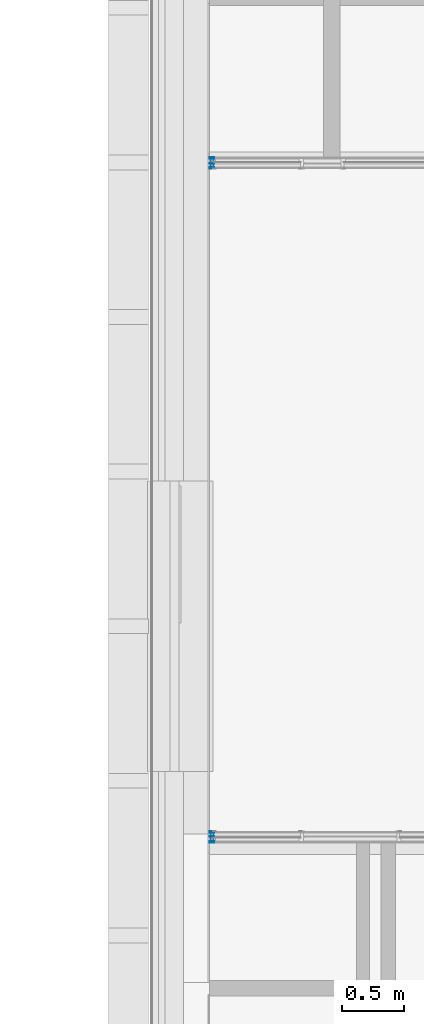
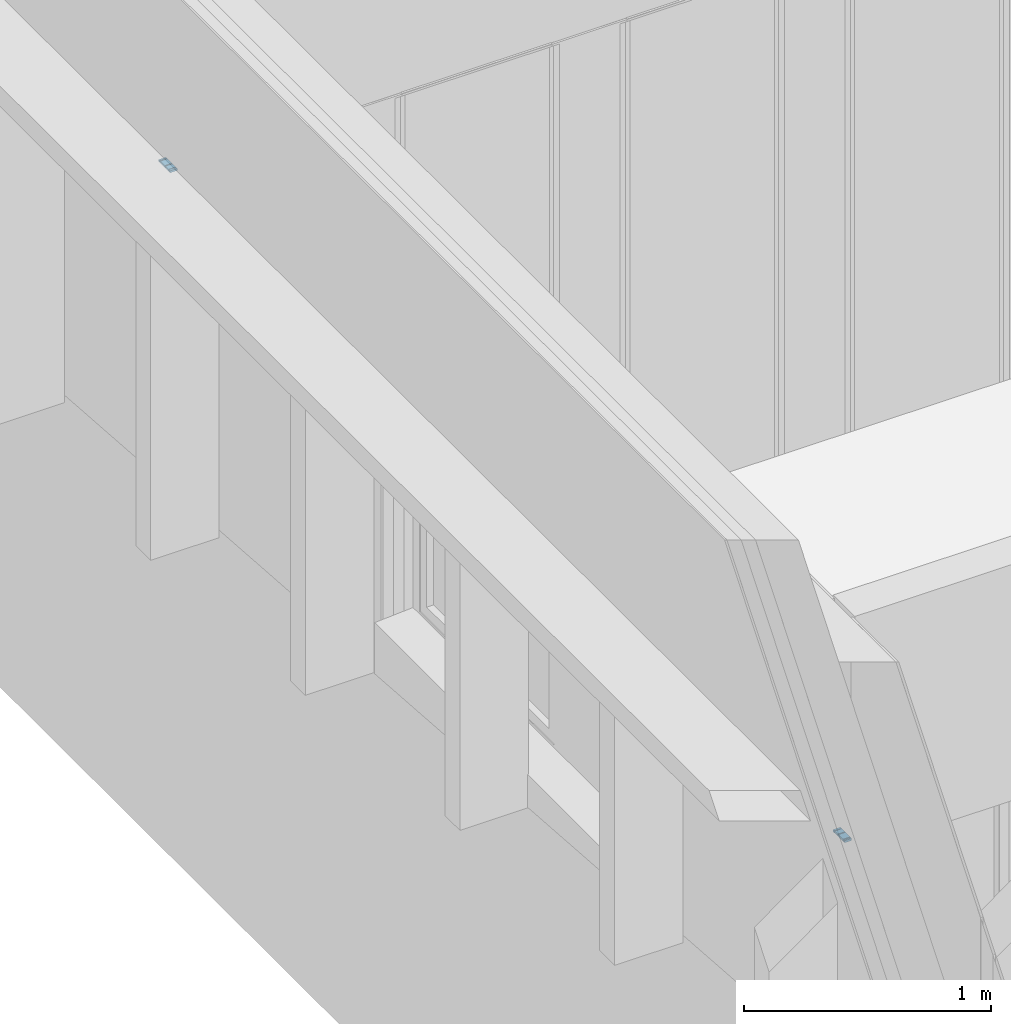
# One storey, part 34 of 89: 8 building element parts, 4 elements without a shape of their own.
"""IFC2X3 building model written with IfcOpenShell, lengths in millimetres."""

from ifc_helpers import new_model, entity, si_unit, converted_unit, derived_unit, money_unit, direction, frame, origin_with_axes, place, context, subcontext, project, spatial, faceted_brep, source, transform, mapped, material, type_object, element, aggregate, save


model = new_model("IFC2X3")

# Units and contexts
model_context = context("Model", 3, precision=0.01, world=origin_with_axes(), true_north=direction((0.0, 1.0)))
body_context = subcontext(model_context, "Body", "Model", "MODEL_VIEW")
ifc_project = project(units=[si_unit("LENGTHUNIT", "METRE", prefix="MILLI"), si_unit("AREAUNIT", "SQUARE_METRE"), si_unit("VOLUMEUNIT", "CUBIC_METRE"), converted_unit("PLANEANGLEUNIT", "DEGREE", entity("IfcPlaneAngleMeasure", 0.0174532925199), si_unit("PLANEANGLEUNIT", "RADIAN"), dimensions=[0, 0, 0, 0, 0, 0, 0]), si_unit("SOLIDANGLEUNIT", "STERADIAN"), money_unit("EUR"), converted_unit("TIMEUNIT", "Year", entity("IfcTimeMeasure", 31556926.0), si_unit("TIMEUNIT", "SECOND"), dimensions=[0, 0, 1, 0, 0, 0, 0]), si_unit("MASSUNIT", "GRAM", prefix="KILO"), si_unit("THERMODYNAMICTEMPERATUREUNIT", "DEGREE_CELSIUS"), si_unit("LUMINOUSINTENSITYUNIT", "LUMEN"), si_unit("ENERGYUNIT", "JOULE", prefix="MEGA"), derived_unit("THERMALCONDUCTANCEUNIT", [(si_unit("POWERUNIT", "WATT"), 1), (si_unit("LENGTHUNIT", "METRE"), -1), (si_unit("THERMODYNAMICTEMPERATUREUNIT", "KELVIN"), -1)]), derived_unit("SPECIFICHEATCAPACITYUNIT", [(si_unit("ENERGYUNIT", "JOULE"), 1), (si_unit("MASSUNIT", "GRAM", prefix="KILO"), -1), (si_unit("THERMODYNAMICTEMPERATUREUNIT", "KELVIN"), -1)]), derived_unit("MASSDENSITYUNIT", [(si_unit("MASSUNIT", "GRAM", prefix="KILO"), 1), (si_unit("VOLUMEUNIT", "CUBIC_METRE"), -1)])], contexts=[model_context])

# Site, building, storey
site_placement = place(None, origin_with_axes())
site = spatial("IfcSite", under=ifc_project, at=site_placement, Name="Puškini 31, Narva", CompositionType="ELEMENT")
building_placement = place(site_placement, origin_with_axes())
building = spatial("IfcBuilding", under=site, at=building_placement, Name="Narva Riigigümnaasium", CompositionType="ELEMENT")
storey_placement = place(building_placement, frame((0.0, 0.0, -3300.0), z_axis=(0.0, 0.0, 1.0), x_axis=(1.0, 0.0, 0.0)))
storey = spatial("IfcBuildingStorey", under=building, at=storey_placement, Name="1.korrus -3.3", CompositionType="ELEMENT", Elevation=-3300.0)

# Curtain wall, plate, building element part
curtain_wall_type = type_object("IfcCurtainWallType", Name="Curtain Wall Type", PredefinedType="NOTDEFINED")
curtain_wall_1_placement = place(storey_placement, frame((28798.9958137, 199279.999716, 0.0), z_axis=(0.0, 0.0, 1.0), x_axis=(1.0, 0.0, 0.0)))
curtain_wall_1 = element("IfcCurtainWall", 1, at=curtain_wall_1_placement, inside=storey, type_object=curtain_wall_type, Name="SUS-01")
plate_type = type_object("IfcPlateType", Name="SA-Siseuksesüsteem-Paneel 34 x 10 x 0", PredefinedType="CURTAIN_PANEL")
plate_1_placement = place(curtain_wall_1_placement, frame((-367.004185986, 0.0, 2394.9999372), z_axis=(0.0, 0.0, 1.0), x_axis=(-1.0, 0.0, 0.0)))
plate_1 = element("IfcPlate", 2, at=plate_1_placement, type_object=plate_type, Name="Panel-SA-Siseuks-085", ObjectType="CURTAIN_PANEL")
aggregate(curtain_wall_1, [plate_1])
ifc_material_1 = material(Name="MDF")
shared_shape_1 = source(origin_with_axes(), body_context, "Body", "Brep", [
    faceted_brep([(34.0, 10.0, 0.0), (0.0, 10.0, 0.0), (0.0, 10.0, 10.0), (34.0, 10.0, 10.0), (34.0, 0.0, 0.0), (0.0, 0.0, 0.0), (0.0, 0.0, 10.0), (34.0, 0.0, 10.0)], [[[0, 1, 2, 3]], [[0, 4, 5, 1]], [[1, 5, 6, 2]], [[3, 2, 6, 7]], [[4, 0, 3, 7]], [[5, 4, 7, 6]]]),
    faceted_brep([(34.0, 10.0, 84.0), (0.0, 10.0, 84.0), (0.0, 10.0, 92.0), (34.0, 10.0, 92.0), (34.0, 0.0, 84.0), (0.0, 0.0, 84.0), (0.0, 0.0, 92.0), (34.0, 0.0, 92.0)], [[[0, 1, 2, 3]], [[0, 4, 5, 1]], [[1, 5, 6, 2]], [[3, 2, 6, 7]], [[4, 0, 3, 7]], [[5, 4, 7, 6]]]),
])
building_element_part_1_placement = place(plate_1_placement, origin_with_axes())
building_element_part_1 = element("IfcBuildingElementPart", 3, at=building_element_part_1_placement, material=ifc_material_1, Name="MDF", context=body_context, shape_type="MappedRepresentation", body=[
    mapped(shared_shape_1, transform((17.0, 0.0, -5.0), x_axis=(-1.0, 0.0, 0.0), y_axis=(0.0, 0.0, 1.0), z_axis=(0.0, 1.0, 0.0))),
])

curtain_wall_2_placement = place(storey_placement, frame((34541.9999996, 204639.999743, 1.06559201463e-05), z_axis=(0.0, 0.0, 1.0), x_axis=(1.0, 0.0, 0.0)))
curtain_wall_2 = element("IfcCurtainWall", 4, at=curtain_wall_2_placement, inside=storey, type_object=curtain_wall_type, Name="SUS-03")
plate_2_placement = place(curtain_wall_2_placement, frame((-6110.17516676, 0.0, 2394.99996419), z_axis=(0.0, 0.0, 1.0), x_axis=(1.0, 0.0, 0.0)))
plate_2 = element("IfcPlate", 5, at=plate_2_placement, type_object=plate_type, Name="Panel-SA-Siseuks-061", ObjectType="CURTAIN_PANEL")
aggregate(curtain_wall_2, [plate_2])
building_element_part_2_placement = place(plate_2_placement, origin_with_axes())
building_element_part_2 = element("IfcBuildingElementPart", 6, at=building_element_part_2_placement, material=ifc_material_1, Name="MDF", context=body_context, shape_type="MappedRepresentation", body=[
    mapped(shared_shape_1, transform((17.0, 0.0, -5.00000532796), x_axis=(-1.0, 0.0, 0.0), y_axis=(0.0, 0.0, 1.0), z_axis=(0.0, 1.0, 0.0))),
])

# Building element part
ifc_material_2 = material(Name="Õhkvahe")
shared_shape_2 = source(origin_with_axes(), body_context, "Body", "Brep", [
    faceted_brep([(34.0, 10.0, 10.0), (0.0, 10.0, 10.0), (0.0, 10.0, 12.0), (34.0, 10.0, 12.0), (34.0, 0.0, 10.0), (0.0, 0.0, 10.0), (0.0, 0.0, 12.0), (34.0, 0.0, 12.0)], [[[0, 1, 2, 3]], [[0, 4, 5, 1]], [[1, 5, 6, 2]], [[3, 2, 6, 7]], [[4, 0, 3, 7]], [[5, 4, 7, 6]]]),
    faceted_brep([(34.0, 10.0, 38.0), (0.0, 10.0, 38.0), (0.0, 10.0, 42.0), (34.0, 10.0, 42.0), (34.0, 0.0, 38.0), (0.0, 0.0, 38.0), (0.0, 0.0, 42.0), (34.0, 0.0, 42.0)], [[[0, 1, 2, 3]], [[0, 4, 5, 1]], [[1, 5, 6, 2]], [[3, 2, 6, 7]], [[4, 0, 3, 7]], [[5, 4, 7, 6]]]),
    faceted_brep([(34.0, 10.0, 79.0), (0.0, 10.0, 79.0), (0.0, 10.0, 84.0), (34.0, 10.0, 84.0), (34.0, 0.0, 79.0), (0.0, 0.0, 79.0), (0.0, 0.0, 84.0), (34.0, 0.0, 84.0)], [[[0, 1, 2, 3]], [[0, 4, 5, 1]], [[1, 5, 6, 2]], [[3, 2, 6, 7]], [[4, 0, 3, 7]], [[5, 4, 7, 6]]]),
])
building_element_part_3_placement = place(plate_1_placement, origin_with_axes())
building_element_part_3 = element("IfcBuildingElementPart", 7, at=building_element_part_3_placement, material=ifc_material_2, Name="Õhkvahe", context=body_context, shape_type="MappedRepresentation", body=[
    mapped(shared_shape_2, transform((17.0, 0.0, -5.0), x_axis=(-1.0, 0.0, 0.0), y_axis=(0.0, 0.0, 1.0), z_axis=(0.0, 1.0, 0.0))),
])

building_element_part_4_placement = place(plate_2_placement, origin_with_axes())
building_element_part_4 = element("IfcBuildingElementPart", 8, at=building_element_part_4_placement, material=ifc_material_2, Name="Õhkvahe", context=body_context, shape_type="MappedRepresentation", body=[
    mapped(shared_shape_2, transform((17.0, 0.0, -5.00000532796), x_axis=(-1.0, 0.0, 0.0), y_axis=(0.0, 0.0, 1.0), z_axis=(0.0, 1.0, 0.0))),
])

ifc_material_3 = material(Name="Kipsplaat")
shared_shape_3 = source(origin_with_axes(), body_context, "Body", "Brep", [
    faceted_brep([(34.0, 10.0, 12.0), (0.0, 10.0, 12.0), (0.0, 10.0, 25.0), (34.0, 10.0, 25.0), (34.0, 0.0, 12.0), (0.0, 0.0, 12.0), (0.0, 0.0, 25.0), (34.0, 0.0, 25.0)], [[[0, 1, 2, 3]], [[0, 4, 5, 1]], [[1, 5, 6, 2]], [[3, 2, 6, 7]], [[4, 0, 3, 7]], [[5, 4, 7, 6]]]),
    faceted_brep([(34.0, 10.0, 25.0), (0.0, 10.0, 25.0), (0.0, 10.0, 38.0), (34.0, 10.0, 38.0), (34.0, 0.0, 25.0), (0.0, 0.0, 25.0), (0.0, 0.0, 38.0), (34.0, 0.0, 38.0)], [[[0, 1, 2, 3]], [[0, 4, 5, 1]], [[1, 5, 6, 2]], [[3, 2, 6, 7]], [[4, 0, 3, 7]], [[5, 4, 7, 6]]]),
])
building_element_part_5_placement = place(plate_1_placement, origin_with_axes())
building_element_part_5 = element("IfcBuildingElementPart", 9, at=building_element_part_5_placement, material=ifc_material_3, Name="Kipsplaat", context=body_context, shape_type="MappedRepresentation", body=[
    mapped(shared_shape_3, transform((17.0, 0.0, -5.0), x_axis=(-1.0, 0.0, 0.0), y_axis=(0.0, 0.0, 1.0), z_axis=(0.0, 1.0, 0.0))),
])

building_element_part_6_placement = place(plate_2_placement, origin_with_axes())
building_element_part_6 = element("IfcBuildingElementPart", 10, at=building_element_part_6_placement, material=ifc_material_3, Name="Kipsplaat", context=body_context, shape_type="MappedRepresentation", body=[
    mapped(shared_shape_3, transform((17.0, 0.0, -5.00000532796), x_axis=(-1.0, 0.0, 0.0), y_axis=(0.0, 0.0, 1.0), z_axis=(0.0, 1.0, 0.0))),
])

ifc_material_4 = material(Name="Klaasvill")
shared_shape_4 = source(origin_with_axes(), body_context, "Body", "Brep", [
    faceted_brep([(34.0, 10.0, 42.0), (0.0, 10.0, 42.0), (0.0, 10.0, 79.0), (34.0, 10.0, 79.0), (34.0, 0.0, 42.0), (0.0, 0.0, 42.0), (0.0, 0.0, 79.0), (34.0, 0.0, 79.0)], [[[0, 1, 2, 3]], [[0, 4, 5, 1]], [[1, 5, 6, 2]], [[3, 2, 6, 7]], [[4, 0, 3, 7]], [[5, 4, 7, 6]]]),
])
building_element_part_7_placement = place(plate_1_placement, origin_with_axes())
building_element_part_7 = element("IfcBuildingElementPart", 11, at=building_element_part_7_placement, material=ifc_material_4, Name="Klaasvill", context=body_context, shape_type="MappedRepresentation", body=[
    mapped(shared_shape_4, transform((17.0, 0.0, -5.0), x_axis=(-1.0, 0.0, 0.0), y_axis=(0.0, 0.0, 1.0), z_axis=(0.0, 1.0, 0.0))),
])

aggregate(plate_1, [building_element_part_1, building_element_part_3, building_element_part_5, building_element_part_7])

building_element_part_8_placement = place(plate_2_placement, origin_with_axes())
building_element_part_8 = element("IfcBuildingElementPart", 12, at=building_element_part_8_placement, material=ifc_material_4, Name="Klaasvill", context=body_context, shape_type="MappedRepresentation", body=[
    mapped(shared_shape_4, transform((17.0, 0.0, -5.00000532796), x_axis=(-1.0, 0.0, 0.0), y_axis=(0.0, 0.0, 1.0), z_axis=(0.0, 1.0, 0.0))),
])

aggregate(plate_2, [building_element_part_2, building_element_part_4, building_element_part_6, building_element_part_8])

save(model, "model.ifc")
